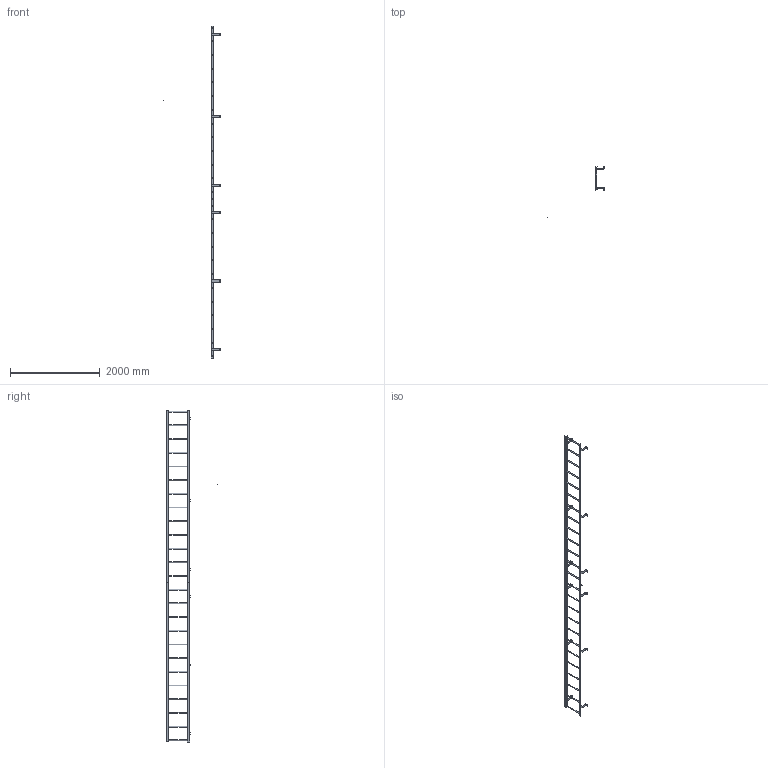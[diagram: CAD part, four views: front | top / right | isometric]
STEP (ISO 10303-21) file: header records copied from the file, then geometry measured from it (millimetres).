
FILE_DESCRIPTION(/* description */ (''),/* implementation_level */ '2;1');
FILE_NAME(/* name */ 'P:\MIKEL & KAREN\D0570339 F25S SIMPLIFIED PART.stp',/* time_stamp */ '2018-07-03T08:29:17-04:00',/* author */ ('stephanie'),/* organization */ (''),/* preprocessor_version */ 'ST-DEVELOPER v16.1',/* originating_system */ 'Autodesk Inventor 2016',/* authorisation */ '');
FILE_SCHEMA (('AUTOMOTIVE_DESIGN { 1 0 10303 214 3 1 1 }'));
Length unit declared in the file: centimetre
Products named in the file (1): D0570339 F25S SIMPLIFIED PART
Bounding box: 1255.21 x 1152.15 x 7391.4 mm (x, y, z)
Volume: 12831216.7 mm3; surface area: 3852121.2 mm2
Topology: 28 solids, 28 shells, 356 faces, 940 edges, 632 vertices
Faces by surface type: plane 206, cylinder 150
Full cylindrical faces by diameter (mm): 0.254 x1, 14.287 x14, 19.05 x25, 22.225 x50
Entity records: 10726 total; most frequent: DIRECTION 1824, CARTESIAN_POINT 1711, ORIENTED_EDGE 1572, EDGE_CURVE 786, AXIS2_PLACEMENT_3D 681, EDGE_LOOP 574, VERTEX_POINT 568, LINE 462
